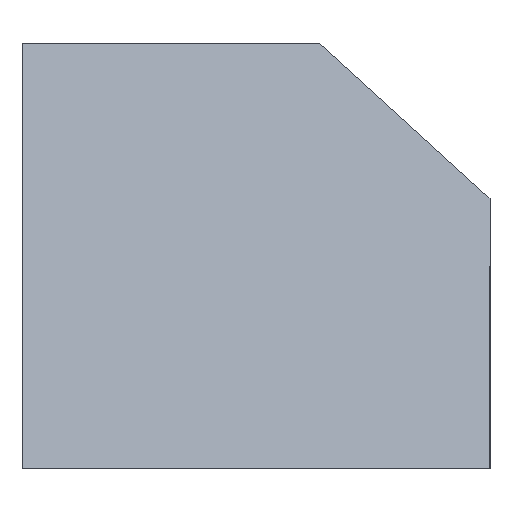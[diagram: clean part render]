
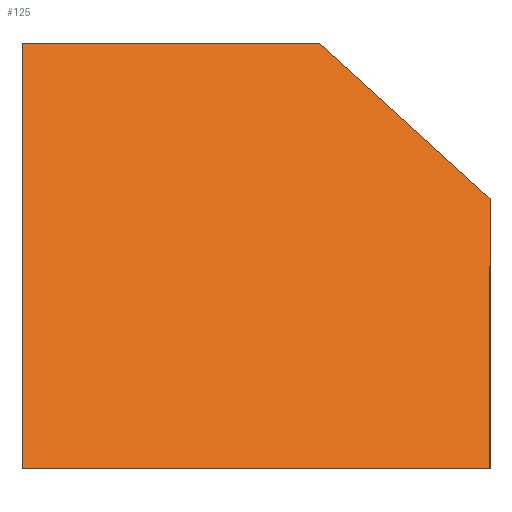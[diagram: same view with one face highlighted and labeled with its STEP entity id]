
A CAD part, left-side view. The second image highlights one B-rep face of the part: STEP entity #125.
In plain terms, the highlighted planar face has unit normal (-0.94, 0, 0.342).
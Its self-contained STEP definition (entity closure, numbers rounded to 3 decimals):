
#19=FACE_OUTER_BOUND('',#26,.T.);
#26=EDGE_LOOP('',(#101,#102,#103,#104,#105));
#29=LINE('',#184,#44);
#34=LINE('',#194,#49);
#38=LINE('',#201,#53);
#41=LINE('',#208,#56);
#42=LINE('',#209,#57);
#44=VECTOR('',#153,10.);
#49=VECTOR('',#160,10.);
#53=VECTOR('',#166,10.);
#56=VECTOR('',#173,10.);
#57=VECTOR('',#174,10.);
#59=VERTEX_POINT('',#182);
#60=VERTEX_POINT('',#183);
#64=VERTEX_POINT('',#193);
#66=VERTEX_POINT('',#198);
#68=VERTEX_POINT('',#207);
#69=EDGE_CURVE('',#59,#60,#29,.T.);
#74=EDGE_CURVE('',#59,#64,#34,.T.);
#78=EDGE_CURVE('',#64,#66,#38,.T.);
#81=EDGE_CURVE('',#66,#68,#41,.T.);
#82=EDGE_CURVE('',#68,#60,#42,.T.);
#101=ORIENTED_EDGE('',*,*,#81,.F.);
#102=ORIENTED_EDGE('',*,*,#78,.F.);
#103=ORIENTED_EDGE('',*,*,#74,.F.);
#104=ORIENTED_EDGE('',*,*,#69,.T.);
#105=ORIENTED_EDGE('',*,*,#82,.F.);
#118=PLANE('',#146);
#125=ADVANCED_FACE('',(#19),#118,.F.);
#146=AXIS2_PLACEMENT_3D('',#206,#171,#172);
#153=DIRECTION('',(0.,-1.,0.));
#160=DIRECTION('',(0.342,0.,0.94));
#166=DIRECTION('',(0.,-1.,0.));
#171=DIRECTION('center_axis',(0.94,0.,-0.342));
#172=DIRECTION('ref_axis',(-0.342,0.,-0.94));
#173=DIRECTION('',(-0.238,-0.719,-0.653));
#174=DIRECTION('',(-0.342,0.,-0.94));
#182=CARTESIAN_POINT('',(0.,77.,0.));
#183=CARTESIAN_POINT('',(0.,0.,0.));
#184=CARTESIAN_POINT('',(0.,77.,0.));
#193=CARTESIAN_POINT('',(25.478,77.,70.));
#194=CARTESIAN_POINT('',(18.822,77.,51.712));
#198=CARTESIAN_POINT('',(25.478,28.101,70.));
#201=CARTESIAN_POINT('',(25.478,19.25,70.));
#206=CARTESIAN_POINT('Origin',(25.478,0.,70.));
#207=CARTESIAN_POINT('',(16.18,0.,44.454));
#208=CARTESIAN_POINT('',(21.996,17.578,60.434));
#209=CARTESIAN_POINT('',(12.739,0.,35.));
